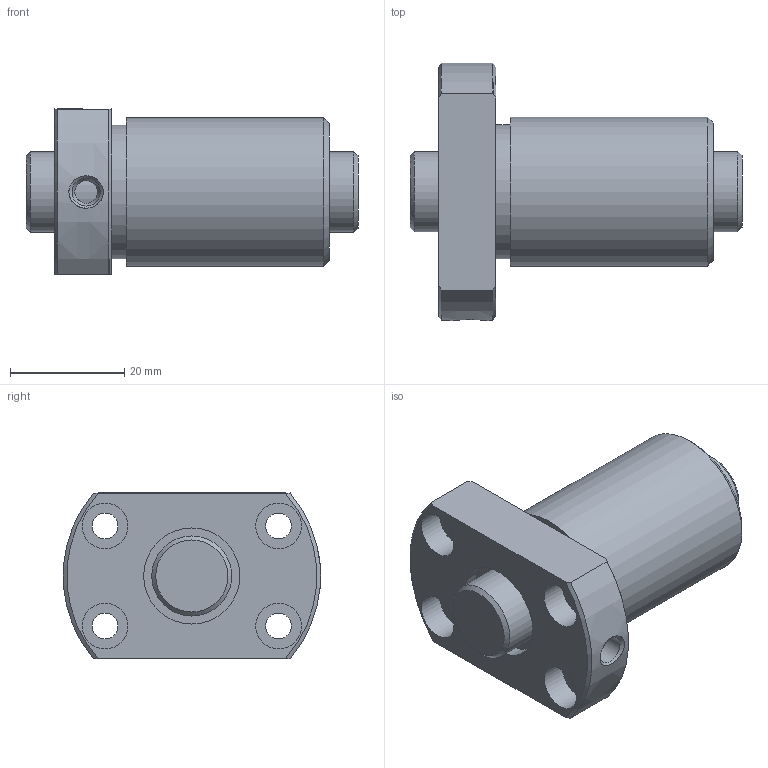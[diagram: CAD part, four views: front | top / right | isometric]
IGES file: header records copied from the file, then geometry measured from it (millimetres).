
Start section: Data from Parasolid IGES Translator 26.0.171, Copyright(c) 2006 Siemens PLM Software. All Rights Reserved.
Global section: file name: DIK1404-4RRG0+58LC0_000.igs; native system: By Siemens PLM Incorporated; preprocessor: XPlus GENERIC/IGES 26.0.171; author: Noname; organization: Noname; date: 20250113.094624; units: millimetre
Bounding box: 58 x 44.93 x 29 mm (x, y, z)
Surface area: 12411.5 mm2 (no closed solid volume)
Topology: 0 solids, 0 shells, 41 faces, 174 edges, 142 vertices
Faces by surface type: revolution 27, extrusion 14
